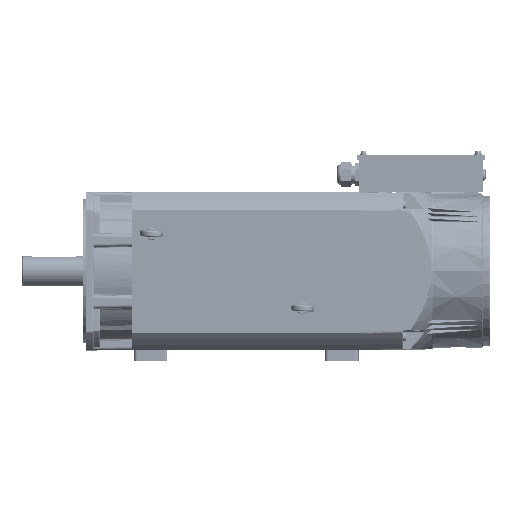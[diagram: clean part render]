
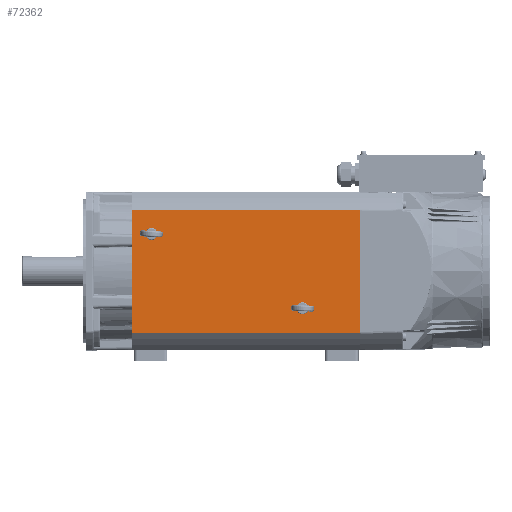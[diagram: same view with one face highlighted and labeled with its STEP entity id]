
A CAD part, top view. The second image highlights one B-rep face of the part: STEP entity #72362.
In plain terms, the highlighted planar face has unit normal (0, 0, 1) as drawn and (0, -1, 0) by its records, which use the part's own axes.
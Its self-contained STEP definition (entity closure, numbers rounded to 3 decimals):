
#2029 = DIRECTION ( 'NONE',  ( 0., -1., 0. ) ) ;
#3880 = AXIS2_PLACEMENT_3D ( 'NONE', #254745, #2029, #214100 ) ;
#4730 = ORIENTED_EDGE ( 'NONE', *, *, #121790, .F. ) ;
#14520 = DIRECTION ( 'NONE',  ( 0., 0., -1. ) ) ;
#15066 = EDGE_LOOP ( 'NONE', ( #97104, #50832 ) ) ;
#16354 = DIRECTION ( 'NONE',  ( 0., 1., 0. ) ) ;
#18141 = CARTESIAN_POINT ( 'NONE',  ( -76.959, -98.5, 155. ) ) ;
#19949 = EDGE_CURVE ( 'NONE', #39698, #33523, #169600, .T. ) ;
#21655 = ORIENTED_EDGE ( 'NONE', *, *, #44740, .F. ) ;
#24687 = ORIENTED_EDGE ( 'NONE', *, *, #255074, .F. ) ;
#28456 = CARTESIAN_POINT ( 'NONE',  ( 46.5, -98.5, 213. ) ) ;
#30926 = CARTESIAN_POINT ( 'NONE',  ( 76.959, -98.5, 285. ) ) ;
#31394 = CARTESIAN_POINT ( 'NONE',  ( -76.959, -98.5, 0. ) ) ;
#33146 = DIRECTION ( 'NONE',  ( 0., -1., 0. ) ) ;
#33523 = VERTEX_POINT ( 'NONE', #31394 ) ;
#39698 = VERTEX_POINT ( 'NONE', #109431 ) ;
#44191 = DIRECTION ( 'NONE',  ( 1., 0., 0. ) ) ;
#44740 = EDGE_CURVE ( 'NONE', #39698, #166747, #215967, .T. ) ;
#47321 = FACE_BOUND ( 'NONE', #205571, .T. ) ;
#49668 = CIRCLE ( 'NONE', #107460, 3.4 ) ;
#50165 = DIRECTION ( 'NONE',  ( 0., 0., -1. ) ) ;
#50832 = ORIENTED_EDGE ( 'NONE', *, *, #54341, .F. ) ;
#54341 = EDGE_CURVE ( 'NONE', #112117, #159179, #170713, .T. ) ;
#54746 = CARTESIAN_POINT ( 'NONE',  ( -46.5, -98.5, 20.6 ) ) ;
#64666 = ORIENTED_EDGE ( 'NONE', *, *, #19949, .T. ) ;
#65445 = VECTOR ( 'NONE', #44191, 1000. ) ;
#72362 = ADVANCED_FACE ( 'NONE', ( #47321, #73840, #172769 ), #227439, .F. ) ;
#73840 = FACE_BOUND ( 'NONE', #15066, .T. ) ;
#81167 = AXIS2_PLACEMENT_3D ( 'NONE', #121532, #16354, #268960 ) ;
#82688 = DIRECTION ( 'NONE',  ( 0., 0., -1. ) ) ;
#85654 = VECTOR ( 'NONE', #14520, 1000. ) ;
#87437 = VECTOR ( 'NONE', #158267, 1000. ) ;
#94393 = CARTESIAN_POINT ( 'NONE',  ( -46.5, -98.5, 27.4 ) ) ;
#97104 = ORIENTED_EDGE ( 'NONE', *, *, #262863, .F. ) ;
#99517 = EDGE_CURVE ( 'NONE', #33523, #245179, #121600, .T. ) ;
#101221 = CARTESIAN_POINT ( 'NONE',  ( 76.959, -98.5, 285. ) ) ;
#107460 = AXIS2_PLACEMENT_3D ( 'NONE', #216524, #255359, #129113 ) ;
#107854 = CARTESIAN_POINT ( 'NONE',  ( 76.959, -98.5, 0. ) ) ;
#109431 = CARTESIAN_POINT ( 'NONE',  ( -76.959, -98.5, 285. ) ) ;
#112117 = VERTEX_POINT ( 'NONE', #211865 ) ;
#121532 = CARTESIAN_POINT ( 'NONE',  ( 76.959, -98.5, 155. ) ) ;
#121600 = LINE ( 'NONE', #107854, #65445 ) ;
#121790 = EDGE_CURVE ( 'NONE', #166747, #245179, #220824, .T. ) ;
#124917 = EDGE_LOOP ( 'NONE', ( #127242, #4730, #21655, #64666 ) ) ;
#127242 = ORIENTED_EDGE ( 'NONE', *, *, #99517, .T. ) ;
#127515 = CARTESIAN_POINT ( 'NONE',  ( 76.959, -98.5, 0. ) ) ;
#129113 = DIRECTION ( 'NONE',  ( 0., 0., -1. ) ) ;
#131633 = AXIS2_PLACEMENT_3D ( 'NONE', #221602, #179247, #50165 ) ;
#136536 = VECTOR ( 'NONE', #82688, 1000. ) ;
#153023 = VERTEX_POINT ( 'NONE', #54746 ) ;
#155336 = EDGE_CURVE ( 'NONE', #153023, #228738, #208490, .T. ) ;
#158267 = DIRECTION ( 'NONE',  ( 1., 0., 0. ) ) ;
#159179 = VERTEX_POINT ( 'NONE', #211358 ) ;
#166747 = VERTEX_POINT ( 'NONE', #101221 ) ;
#169600 = LINE ( 'NONE', #18141, #136536 ) ;
#170713 = CIRCLE ( 'NONE', #176879, 3.4 ) ;
#172769 = FACE_OUTER_BOUND ( 'NONE', #124917, .T. ) ;
#176024 = DIRECTION ( 'NONE',  ( 0., 0., -1. ) ) ;
#176879 = AXIS2_PLACEMENT_3D ( 'NONE', #28456, #33146, #176024 ) ;
#179247 = DIRECTION ( 'NONE',  ( 0., -1., 0. ) ) ;
#186001 = CARTESIAN_POINT ( 'NONE',  ( 76.959, -98.5, 155. ) ) ;
#204613 = ORIENTED_EDGE ( 'NONE', *, *, #155336, .F. ) ;
#205571 = EDGE_LOOP ( 'NONE', ( #204613, #24687 ) ) ;
#208490 = CIRCLE ( 'NONE', #3880, 3.4 ) ;
#211358 = CARTESIAN_POINT ( 'NONE',  ( 46.5, -98.5, 209.6 ) ) ;
#211865 = CARTESIAN_POINT ( 'NONE',  ( 46.5, -98.5, 216.4 ) ) ;
#214100 = DIRECTION ( 'NONE',  ( 0., 0., -1. ) ) ;
#215967 = LINE ( 'NONE', #30926, #87437 ) ;
#216524 = CARTESIAN_POINT ( 'NONE',  ( -46.5, -98.5, 24. ) ) ;
#220824 = LINE ( 'NONE', #186001, #85654 ) ;
#221602 = CARTESIAN_POINT ( 'NONE',  ( 46.5, -98.5, 213. ) ) ;
#227439 = PLANE ( 'NONE',  #81167 ) ;
#228738 = VERTEX_POINT ( 'NONE', #94393 ) ;
#245179 = VERTEX_POINT ( 'NONE', #127515 ) ;
#254745 = CARTESIAN_POINT ( 'NONE',  ( -46.5, -98.5, 24. ) ) ;
#255074 = EDGE_CURVE ( 'NONE', #228738, #153023, #49668, .T. ) ;
#255359 = DIRECTION ( 'NONE',  ( 0., -1., 0. ) ) ;
#256623 = CIRCLE ( 'NONE', #131633, 3.4 ) ;
#262863 = EDGE_CURVE ( 'NONE', #159179, #112117, #256623, .T. ) ;
#268960 = DIRECTION ( 'NONE',  ( -1., 0., 0. ) ) ;
